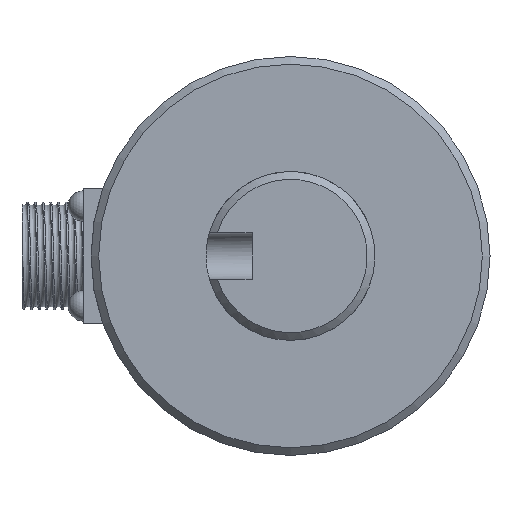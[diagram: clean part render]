
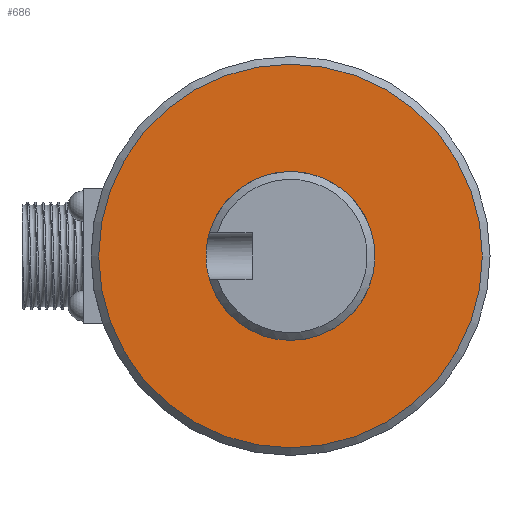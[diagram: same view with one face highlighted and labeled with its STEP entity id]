
A CAD part, left-side view. The second image highlights one B-rep face of the part: STEP entity #686.
In plain terms, the highlighted planar face has unit normal (-1, 0, 0).
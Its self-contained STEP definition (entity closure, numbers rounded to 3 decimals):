
#27=PLANE('',#771);
#44=FACE_BOUND('',#118,.T.);
#76=FACE_OUTER_BOUND('',#117,.T.);
#117=EDGE_LOOP('',(#510));
#118=EDGE_LOOP('',(#511));
#158=CIRCLE('',#763,25.);
#159=CIRCLE('',#765,11.);
#311=VERTEX_POINT('',#1643);
#312=VERTEX_POINT('',#1647);
#386=EDGE_CURVE('',#311,#311,#158,.T.);
#387=EDGE_CURVE('',#312,#312,#159,.T.);
#510=ORIENTED_EDGE('',*,*,#386,.T.);
#511=ORIENTED_EDGE('',*,*,#387,.T.);
#686=ADVANCED_FACE('',(#76,#44),#27,.F.);
#763=AXIS2_PLACEMENT_3D('',#1645,#874,#875);
#765=AXIS2_PLACEMENT_3D('',#1648,#878,#879);
#771=AXIS2_PLACEMENT_3D('',#1663,#894,#895);
#874=DIRECTION('center_axis',(-1.,0.,0.));
#875=DIRECTION('ref_axis',(0.,0.,-1.));
#878=DIRECTION('center_axis',(1.,0.,0.));
#879=DIRECTION('ref_axis',(0.,0.,-1.));
#894=DIRECTION('center_axis',(1.,0.,0.));
#895=DIRECTION('ref_axis',(0.,0.,-1.));
#1643=CARTESIAN_POINT('',(-20.5,0.,25.));
#1645=CARTESIAN_POINT('Origin',(-20.5,0.,0.));
#1647=CARTESIAN_POINT('',(-20.5,0.,11.));
#1648=CARTESIAN_POINT('Origin',(-20.5,0.,0.));
#1663=CARTESIAN_POINT('Origin',(-20.5,0.,0.));
